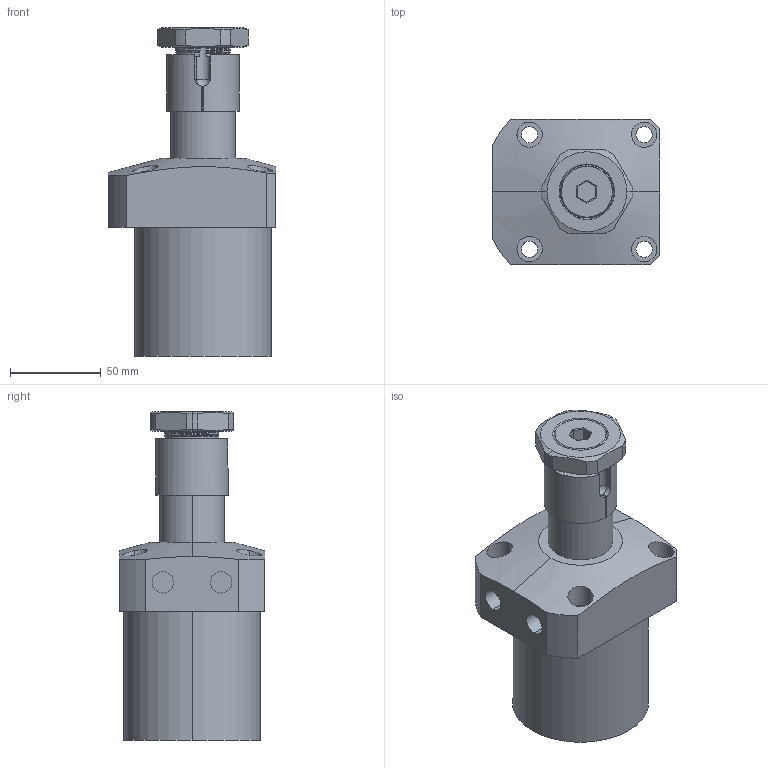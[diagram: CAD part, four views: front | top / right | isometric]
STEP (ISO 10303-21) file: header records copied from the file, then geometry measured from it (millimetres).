
FILE_DESCRIPTION(('FreeCAD Model'),'2;1');
FILE_NAME('Open CASCADE Shape Model','2021-08-17T19:02:58',('Author'),( ''),'Open CASCADE STEP processor 7.4','FreeCAD','Unknown');
FILE_SCHEMA(('AUTOMOTIVE_DESIGN { 1 0 10303 214 1 1 1 1 }'));
Length unit declared in the file: millimetre
Products named in the file (5): HCA-075SRX90; HCA-075S-001; HCA-075S-002; HCA-075S-003; CHA-075ﾝ?
Assembly tree (4 placements, depth 2):
  HCA-075SRX90
    HCA-075S-001
    HCA-075S-002
    HCA-075S-003
    CHA-075ﾝ?
Bounding box: 92 x 80 x 181 mm (x, y, z)
Volume: 563293 mm3; surface area: 92361.9 mm2
Topology: 4 solids, 4 shells, 179 faces, 467 edges, 306 vertices
Faces by surface type: cylinder 96, plane 46, bspline 20, cone 16, revolution 1
Entity records: 25793 total; most frequent: CARTESIAN_POINT 17332, DIRECTION 1298, ORIENTED_EDGE 932, PCURVE 932, DEFINITIONAL_REPRESENTATION 932, LINE 682, VECTOR 682, EDGE_CURVE 466
